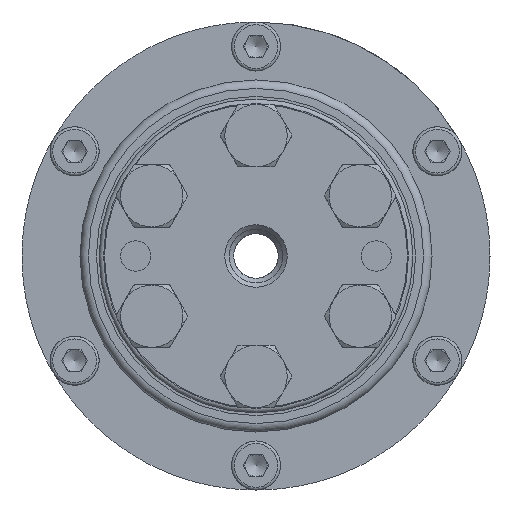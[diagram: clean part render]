
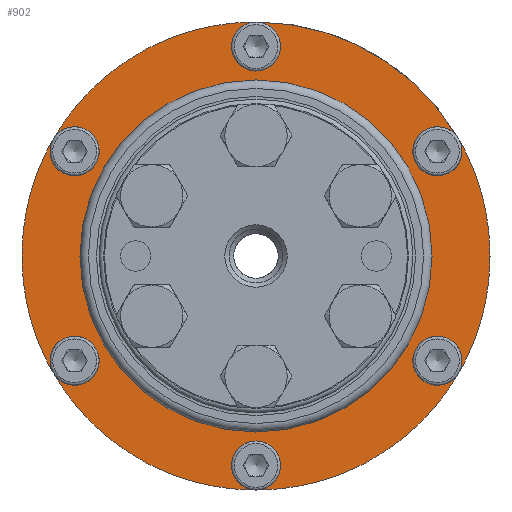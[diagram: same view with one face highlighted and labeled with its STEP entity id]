
A CAD part, left-side view. The second image highlights one B-rep face of the part: STEP entity #902.
In plain terms, the highlighted planar face has unit normal (-1, 0, 0).
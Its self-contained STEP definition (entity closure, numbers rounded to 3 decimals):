
#902 = ADVANCED_FACE( '', ( #2331, #2332 ), #2333, .T. );
#2331 = FACE_OUTER_BOUND( '', #4782, .T. );
#2332 = FACE_BOUND( '', #4783, .T. );
#2333 = PLANE( '', #4784 );
#4782 = EDGE_LOOP( '', ( #7968, #7969, #7970, #7971, #7972, #7973, #7974, #7975, #7976, #7977, #7978, #7979 ) );
#4783 = EDGE_LOOP( '', ( #7980 ) );
#4784 = AXIS2_PLACEMENT_3D( '', #7981, #7982, #7983 );
#7968 = ORIENTED_EDGE( '', *, *, #12369, .T. );
#7969 = ORIENTED_EDGE( '', *, *, #12400, .F. );
#7970 = ORIENTED_EDGE( '', *, *, #12368, .T. );
#7971 = ORIENTED_EDGE( '', *, *, #12401, .F. );
#7972 = ORIENTED_EDGE( '', *, *, #12367, .T. );
#7973 = ORIENTED_EDGE( '', *, *, #12402, .F. );
#7974 = ORIENTED_EDGE( '', *, *, #12372, .T. );
#7975 = ORIENTED_EDGE( '', *, *, #12403, .F. );
#7976 = ORIENTED_EDGE( '', *, *, #12371, .T. );
#7977 = ORIENTED_EDGE( '', *, *, #12404, .F. );
#7978 = ORIENTED_EDGE( '', *, *, #12370, .T. );
#7979 = ORIENTED_EDGE( '', *, *, #12405, .F. );
#7980 = ORIENTED_EDGE( '', *, *, #12055, .F. );
#7981 = CARTESIAN_POINT( '', ( 1.25, 0., 26.25 ) );
#7982 = DIRECTION( '', ( -1., 0., 0. ) );
#7983 = DIRECTION( '', ( 0., 0., 1. ) );
#12055 = EDGE_CURVE( '', #14149, #14149, #14150, .T. );
#12367 = EDGE_CURVE( '', #14666, #14667, #14668, .T. );
#12368 = EDGE_CURVE( '', #14669, #14666, #14670, .T. );
#12369 = EDGE_CURVE( '', #14671, #14669, #14672, .T. );
#12370 = EDGE_CURVE( '', #14673, #14671, #14674, .T. );
#12371 = EDGE_CURVE( '', #14675, #14673, #14676, .T. );
#12372 = EDGE_CURVE( '', #14667, #14675, #14677, .T. );
#12400 = EDGE_CURVE( '', #14669, #14669, #14720, .T. );
#12401 = EDGE_CURVE( '', #14666, #14666, #14721, .T. );
#12402 = EDGE_CURVE( '', #14667, #14667, #14722, .T. );
#12403 = EDGE_CURVE( '', #14675, #14675, #14723, .T. );
#12404 = EDGE_CURVE( '', #14673, #14673, #14724, .T. );
#12405 = EDGE_CURVE( '', #14671, #14671, #14725, .T. );
#14149 = VERTEX_POINT( '', #17162 );
#14150 = CIRCLE( '', #17163, 17.6 );
#14666 = VERTEX_POINT( '', #18226 );
#14667 = VERTEX_POINT( '', #18227 );
#14668 = CIRCLE( '', #18228, 26.25 );
#14669 = VERTEX_POINT( '', #18229 );
#14670 = CIRCLE( '', #18230, 26.25 );
#14671 = VERTEX_POINT( '', #18231 );
#14672 = CIRCLE( '', #18232, 26.25 );
#14673 = VERTEX_POINT( '', #18233 );
#14674 = CIRCLE( '', #18234, 26.25 );
#14675 = VERTEX_POINT( '', #18235 );
#14676 = CIRCLE( '', #18236, 26.25 );
#14677 = CIRCLE( '', #18237, 26.25 );
#14720 = CIRCLE( '', #18336, 2.75 );
#14721 = CIRCLE( '', #18337, 2.75 );
#14722 = CIRCLE( '', #18338, 2.75 );
#14723 = CIRCLE( '', #18339, 2.75 );
#14724 = CIRCLE( '', #18340, 2.75 );
#14725 = CIRCLE( '', #18341, 2.75 );
#17162 = CARTESIAN_POINT( '', ( 1.25, 0., 17.6 ) );
#17163 = AXIS2_PLACEMENT_3D( '', #21749, #21750, #21751 );
#18226 = CARTESIAN_POINT( '', ( 1.25, 0., 26.25 ) );
#18227 = CARTESIAN_POINT( '', ( 1.25, 22.733, 13.125 ) );
#18228 = AXIS2_PLACEMENT_3D( '', #22169, #22170, #22171 );
#18229 = CARTESIAN_POINT( '', ( 1.25, -22.733, 13.125 ) );
#18230 = AXIS2_PLACEMENT_3D( '', #22172, #22173, #22174 );
#18231 = CARTESIAN_POINT( '', ( 1.25, -22.733, -13.125 ) );
#18232 = AXIS2_PLACEMENT_3D( '', #22175, #22176, #22177 );
#18233 = CARTESIAN_POINT( '', ( 1.25, 0., -26.25 ) );
#18234 = AXIS2_PLACEMENT_3D( '', #22178, #22179, #22180 );
#18235 = CARTESIAN_POINT( '', ( 1.25, 22.733, -13.125 ) );
#18236 = AXIS2_PLACEMENT_3D( '', #22181, #22182, #22183 );
#18237 = AXIS2_PLACEMENT_3D( '', #22184, #22185, #22186 );
#18336 = AXIS2_PLACEMENT_3D( '', #22219, #22220, #22221 );
#18337 = AXIS2_PLACEMENT_3D( '', #22222, #22223, #22224 );
#18338 = AXIS2_PLACEMENT_3D( '', #22225, #22226, #22227 );
#18339 = AXIS2_PLACEMENT_3D( '', #22228, #22229, #22230 );
#18340 = AXIS2_PLACEMENT_3D( '', #22231, #22232, #22233 );
#18341 = AXIS2_PLACEMENT_3D( '', #22234, #22235, #22236 );
#21749 = CARTESIAN_POINT( '', ( 1.25, 0., 0. ) );
#21750 = DIRECTION( '', ( -1., 0., 0. ) );
#21751 = DIRECTION( '', ( 0., 0., 1. ) );
#22169 = CARTESIAN_POINT( '', ( 1.25, 0., 0. ) );
#22170 = DIRECTION( '', ( -1., 0., 0. ) );
#22171 = DIRECTION( '', ( 0., 0., 1. ) );
#22172 = CARTESIAN_POINT( '', ( 1.25, 0., 0. ) );
#22173 = DIRECTION( '', ( -1., 0., 0. ) );
#22174 = DIRECTION( '', ( 0., 0., 1. ) );
#22175 = CARTESIAN_POINT( '', ( 1.25, 0., 0. ) );
#22176 = DIRECTION( '', ( -1., 0., 0. ) );
#22177 = DIRECTION( '', ( 0., 0., 1. ) );
#22178 = CARTESIAN_POINT( '', ( 1.25, 0., 0. ) );
#22179 = DIRECTION( '', ( -1., 0., 0. ) );
#22180 = DIRECTION( '', ( 0., 0., 1. ) );
#22181 = CARTESIAN_POINT( '', ( 1.25, 0., 0. ) );
#22182 = DIRECTION( '', ( -1., 0., 0. ) );
#22183 = DIRECTION( '', ( 0., 0., 1. ) );
#22184 = CARTESIAN_POINT( '', ( 1.25, 0., 0. ) );
#22185 = DIRECTION( '', ( -1., 0., 0. ) );
#22186 = DIRECTION( '', ( 0., 0., 1. ) );
#22219 = CARTESIAN_POINT( '', ( 1.25, -20.352, 11.75 ) );
#22220 = DIRECTION( '', ( -1., 0., 0. ) );
#22221 = DIRECTION( '', ( 0., -0.866, 0.5 ) );
#22222 = CARTESIAN_POINT( '', ( 1.25, 0., 23.5 ) );
#22223 = DIRECTION( '', ( -1., 0., 0. ) );
#22224 = DIRECTION( '', ( 0., 0., 1. ) );
#22225 = CARTESIAN_POINT( '', ( 1.25, 20.352, 11.75 ) );
#22226 = DIRECTION( '', ( -1., 0., 0. ) );
#22227 = DIRECTION( '', ( 0., 0.866, 0.5 ) );
#22228 = CARTESIAN_POINT( '', ( 1.25, 20.352, -11.75 ) );
#22229 = DIRECTION( '', ( -1., 0., 0. ) );
#22230 = DIRECTION( '', ( 0., 0.866, -0.5 ) );
#22231 = CARTESIAN_POINT( '', ( 1.25, 0., -23.5 ) );
#22232 = DIRECTION( '', ( -1., 0., 0. ) );
#22233 = DIRECTION( '', ( 0., 0., -1. ) );
#22234 = CARTESIAN_POINT( '', ( 1.25, -20.352, -11.75 ) );
#22235 = DIRECTION( '', ( -1., 0., 0. ) );
#22236 = DIRECTION( '', ( 0., -0.866, -0.5 ) );
